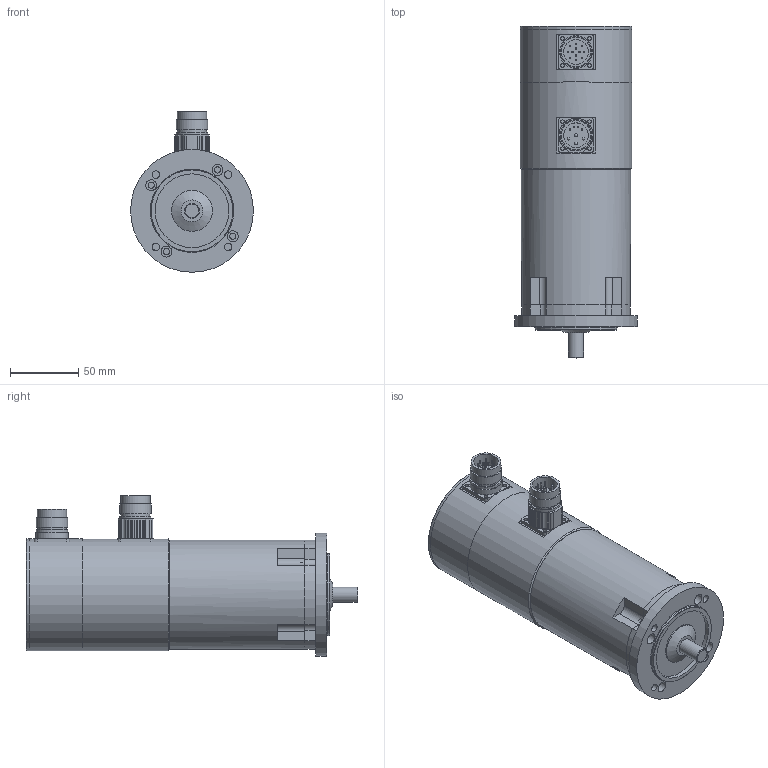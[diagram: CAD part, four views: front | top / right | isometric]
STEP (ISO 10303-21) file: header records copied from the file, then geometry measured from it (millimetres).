
FILE_DESCRIPTION(/* description */ (''),/* implementation_level */ '2;1');
FILE_NAME(/* name */ 'ksy_268e_rx',/* time_stamp */ '2007-03-16T13:56:49+01:00',/* author */ (''),/* organization */ (''),/* preprocessor_version */ 'ST-DEVELOPER v8',/* originating_system */ 'UNIGRAPHICS SOLUTIONS - UNIGRAPHICS 18.0',/* authorisation */ '');
FILE_SCHEMA (('AUTOMOTIVE_DESIGN { 1 2 10303 214 0 1 1 1 }'));
Length unit declared in the file: millimetre
Products named in the file (11): 014261_0; 014260_0; 064260_0; 064312_0; 112088_0; 06330301_0; DIN3760_org_A12x24x7_0; Rotor_SY 26.. E_0; Gehaeuse_SY26.. E_0; 112072_0; KSY264_E-RC_0
Assembly tree (10 placements, depth 2):
  KSY264_E-RC_0
    112072_0
    Gehaeuse_SY26.. E_0
    Rotor_SY 26.. E_0
    DIN3760_org_A12x24x7_0
    06330301_0
    112088_0
    064312_0
    064260_0
    014260_0
    014261_0
Bounding box: 90 x 243 x 117.5 mm (x, y, z)
Volume: 903794 mm3; surface area: 150129.8 mm2
Topology: 10 solids, 10 shells, 297 faces, 741 edges, 477 vertices
Faces by surface type: cylinder 159, plane 94, sphere 20, cone 17, torus 7
Full cylindrical faces by diameter (mm): 1 x16, 2 x4, 2.7 x8, 3.5 x4, 4.5 x4, 5.5 x4, 8 x4, 10.52 x1, 10.94 x1, 11 x1, 12 x2, 12.3 x1, 18 x2, 20 x4, 21 x3, 21.5 x2, 23 x4, 24 x3, 30 x1, 32 x1, 54 x1, 60 x2, 63.3 x1, 64 x1, 64.3 x1, 65 x2, 66 x2, 80 x1, 82 x3, 90 x1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
Entity records: 8041 total; most frequent: DIRECTION 1502, CARTESIAN_POINT 1249, ORIENTED_EDGE 1052, AXIS2_PLACEMENT_3D 668, EDGE_CURVE 526, EDGE_LOOP 506, VERTEX_POINT 415, CIRCLE 360
